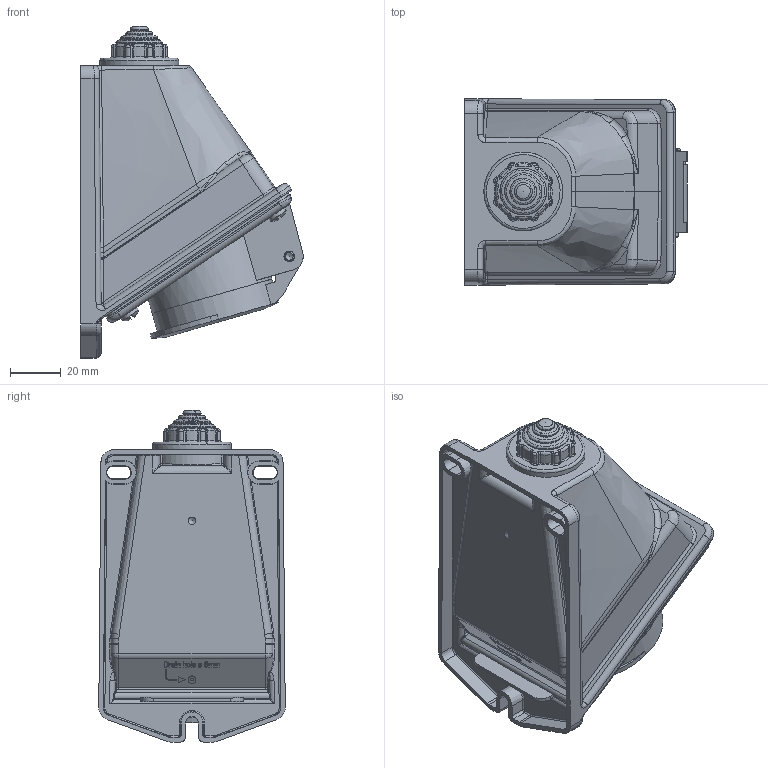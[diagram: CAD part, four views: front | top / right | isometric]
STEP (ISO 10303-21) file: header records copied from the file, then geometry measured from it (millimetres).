
FILE_DESCRIPTION(/* description */ (''),/* implementation_level */ '2;1');
FILE_NAME(/* name */ '4006094.stp',/* time_stamp */ '2020-10-23T08:01:38+02:00',/* author */ (''),/* organization */ (''),/* preprocessor_version */ 'ST-DEVELOPER v16.7',/* originating_system */ 'SIEMENS PLM Software NX 1942',/* authorisation */ '');
FILE_SCHEMA (('AUTOMOTIVE_DESIGN { 1 0 10303 214 3 1 1 1 }'));
Products named in the file (1): BSOM4544E738n4r6
Bounding box: 87.5 x 73.34 x 130.6 mm (x, y, z)
Volume: 131842.4 mm3; surface area: 114354.1 mm2
Topology: 11 solids, 11 shells, 1591 faces, 3939 edges, 2389 vertices
Faces by surface type: plane 465, bspline 414, cylinder 310, torus 152, extrusion 121, cone 95, sphere 34
Full cylindrical faces by diameter (mm): 1 x4, 2 x2, 2.2 x2, 3 x3, 3.5 x3, 4 x7, 4.2 x2, 4.5 x1, 6 x4, 7 x2, 7.1 x1, 7.6 x4, 23 x1, 24.998 x1, 31 x1, 40 x1, 45 x1, 49 x3
Entity records: 68231 total; most frequent: CARTESIAN_POINT 34751, ORIENTED_EDGE 7248, DIRECTION 5885, EDGE_CURVE 3624, VERTEX_POINT 2357, AXIS2_PLACEMENT_3D 2183, EDGE_LOOP 1927, ADVANCED_FACE 1591
